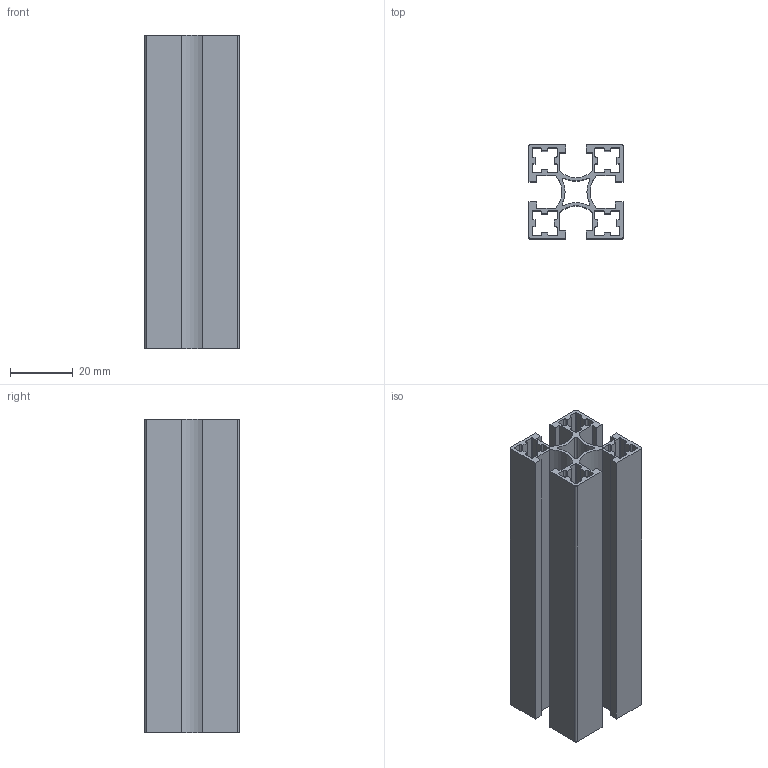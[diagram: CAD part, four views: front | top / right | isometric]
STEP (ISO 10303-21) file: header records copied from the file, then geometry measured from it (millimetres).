
FILE_DESCRIPTION(/* description */ (''),/* implementation_level */ '2;1');
FILE_NAME(/* name */ 'C:\Users\Owner\Documents\硯聰\Inv材料庫-3D新型錄\AM-(鋁擠)\6系列\AM6-P3030_100L.stp',/* time_stamp */ '2019-02-21T15:03:22+08:00',/* author */ ('Owner'),/* organization */ (''),/* preprocessor_version */ 'ST-DEVELOPER v16.1',/* originating_system */ 'Autodesk Inventor 2016',/* authorisation */ '');
FILE_SCHEMA (('AUTOMOTIVE_DESIGN { 1 0 10303 214 3 1 1 }'));
Length unit declared in the file: millimetre
Products named in the file (1): AM6-P3030_100L
Bounding box: 30 x 30 x 100 mm (x, y, z)
Volume: 24605.7 mm3; surface area: 41441.6 mm2
Topology: 1 solids, 1 shells, 178 faces, 528 edges, 352 vertices
Faces by surface type: plane 114, cylinder 64
Entity records: 6004 total; most frequent: CARTESIAN_POINT 1059, ORIENTED_EDGE 1056, DIRECTION 1014, EDGE_CURVE 528, LINE 400, VECTOR 400, VERTEX_POINT 352, AXIS2_PLACEMENT_3D 307
